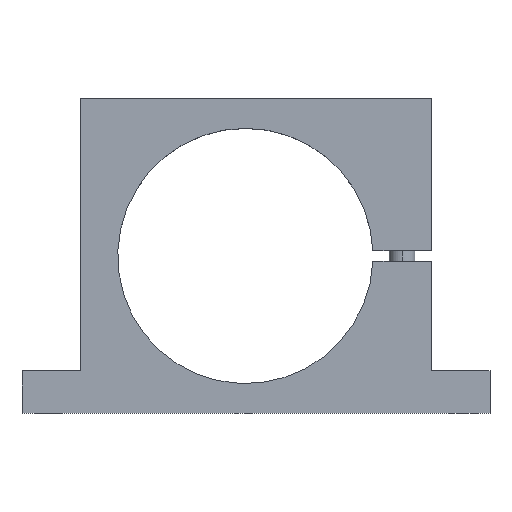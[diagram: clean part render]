
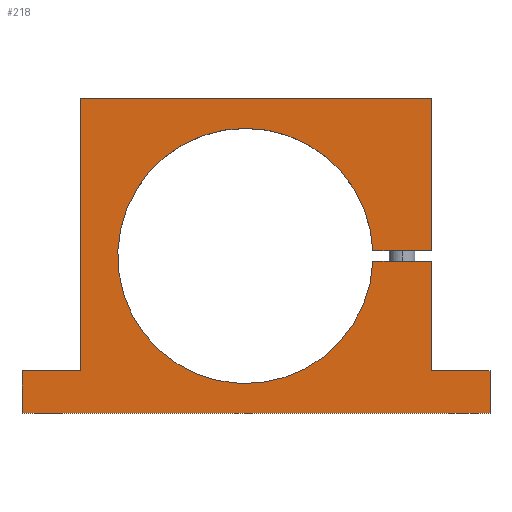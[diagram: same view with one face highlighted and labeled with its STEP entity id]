
A CAD part, top view. The second image highlights one B-rep face of the part: STEP entity #218.
In plain terms, the highlighted planar face has unit normal (0, 0, 1).
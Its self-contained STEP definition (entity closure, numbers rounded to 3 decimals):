
#61=CARTESIAN_POINT('Vertex',(-59.948,76.5,30.)) ;
#66=CARTESIAN_POINT('Axis2P3D Location',(0.,74.,30.)) ;
#70=CARTESIAN_POINT('Vertex',(59.948,71.5,30.)) ;
#108=CARTESIAN_POINT('Vertex',(59.948,76.5,30.)) ;
#111=CARTESIAN_POINT('Axis2P3D Location',(0.,74.,30.)) ;
#123=CARTESIAN_POINT('Axis2P3D Location',(0.,0.,30.)) ;
#128=CARTESIAN_POINT('Line Origine',(-105.,10.,30.)) ;
#132=CARTESIAN_POINT('Vertex',(-105.,0.,30.)) ;
#134=CARTESIAN_POINT('Vertex',(-105.,20.,30.)) ;
#137=CARTESIAN_POINT('Line Origine',(5.,0.,30.)) ;
#141=CARTESIAN_POINT('Vertex',(115.,0.,30.)) ;
#144=CARTESIAN_POINT('Line Origine',(115.,10.,30.)) ;
#148=CARTESIAN_POINT('Vertex',(115.,20.,30.)) ;
#151=CARTESIAN_POINT('Line Origine',(101.25,20.,30.)) ;
#155=CARTESIAN_POINT('Vertex',(87.5,20.,30.)) ;
#158=CARTESIAN_POINT('Line Origine',(87.5,45.75,30.)) ;
#162=CARTESIAN_POINT('Vertex',(87.5,71.5,30.)) ;
#165=CARTESIAN_POINT('Line Origine',(73.724,71.5,30.)) ;
#170=CARTESIAN_POINT('Line Origine',(73.724,76.5,30.)) ;
#174=CARTESIAN_POINT('Vertex',(87.5,76.5,30.)) ;
#177=CARTESIAN_POINT('Line Origine',(87.5,112.25,30.)) ;
#181=CARTESIAN_POINT('Vertex',(87.5,148.,30.)) ;
#184=CARTESIAN_POINT('Line Origine',(5.,148.,30.)) ;
#188=CARTESIAN_POINT('Vertex',(-77.5,148.,30.)) ;
#191=CARTESIAN_POINT('Line Origine',(-77.5,84.,30.)) ;
#195=CARTESIAN_POINT('Vertex',(-77.5,20.,30.)) ;
#198=CARTESIAN_POINT('Line Origine',(-91.25,20.,30.)) ;
#67=DIRECTION('Axis2P3D Direction',(0.,0.,-1.)) ;
#112=DIRECTION('Axis2P3D Direction',(0.,0.,-1.)) ;
#124=DIRECTION('Axis2P3D Direction',(0.,0.,1.)) ;
#125=DIRECTION('Axis2P3D XDirection',(1.,0.,0.)) ;
#129=DIRECTION('Vector Direction',(0.,1.,0.)) ;
#138=DIRECTION('Vector Direction',(-1.,0.,0.)) ;
#145=DIRECTION('Vector Direction',(0.,-1.,0.)) ;
#152=DIRECTION('Vector Direction',(1.,0.,0.)) ;
#159=DIRECTION('Vector Direction',(0.,-1.,0.)) ;
#166=DIRECTION('Vector Direction',(1.,0.,0.)) ;
#171=DIRECTION('Vector Direction',(-1.,0.,0.)) ;
#178=DIRECTION('Vector Direction',(0.,-1.,0.)) ;
#185=DIRECTION('Vector Direction',(1.,0.,0.)) ;
#192=DIRECTION('Vector Direction',(0.,1.,0.)) ;
#199=DIRECTION('Vector Direction',(1.,0.,0.)) ;
#68=AXIS2_PLACEMENT_3D('Circle Axis2P3D',#66,#67,$) ;
#113=AXIS2_PLACEMENT_3D('Circle Axis2P3D',#111,#112,$) ;
#126=AXIS2_PLACEMENT_3D('Plane Axis2P3D',#123,#124,#125) ;
#204=ORIENTED_EDGE('',*,*,#136,.F.) ;
#205=ORIENTED_EDGE('',*,*,#143,.F.) ;
#206=ORIENTED_EDGE('',*,*,#150,.F.) ;
#207=ORIENTED_EDGE('',*,*,#157,.F.) ;
#208=ORIENTED_EDGE('',*,*,#164,.F.) ;
#209=ORIENTED_EDGE('',*,*,#169,.F.) ;
#210=ORIENTED_EDGE('',*,*,#72,.F.) ;
#211=ORIENTED_EDGE('',*,*,#115,.F.) ;
#212=ORIENTED_EDGE('',*,*,#176,.F.) ;
#213=ORIENTED_EDGE('',*,*,#183,.F.) ;
#214=ORIENTED_EDGE('',*,*,#190,.F.) ;
#215=ORIENTED_EDGE('',*,*,#197,.F.) ;
#216=ORIENTED_EDGE('',*,*,#202,.F.) ;
#130=VECTOR('Line Direction',#129,1.) ;
#139=VECTOR('Line Direction',#138,1.) ;
#146=VECTOR('Line Direction',#145,1.) ;
#153=VECTOR('Line Direction',#152,1.) ;
#160=VECTOR('Line Direction',#159,1.) ;
#167=VECTOR('Line Direction',#166,1.) ;
#172=VECTOR('Line Direction',#171,1.) ;
#179=VECTOR('Line Direction',#178,1.) ;
#186=VECTOR('Line Direction',#185,1.) ;
#193=VECTOR('Line Direction',#192,1.) ;
#200=VECTOR('Line Direction',#199,1.) ;
#218=ADVANCED_FACE('',(#217),#127,.T.) ;
#69=CIRCLE('generated circle',#68,60.) ;
#114=CIRCLE('generated circle',#113,60.) ;
#72=EDGE_CURVE('',#62,#71,#69,.F.) ;
#115=EDGE_CURVE('',#109,#62,#114,.F.) ;
#136=EDGE_CURVE('',#133,#135,#131,.T.) ;
#143=EDGE_CURVE('',#142,#133,#140,.T.) ;
#150=EDGE_CURVE('',#149,#142,#147,.T.) ;
#157=EDGE_CURVE('',#156,#149,#154,.T.) ;
#164=EDGE_CURVE('',#163,#156,#161,.T.) ;
#169=EDGE_CURVE('',#71,#163,#168,.T.) ;
#176=EDGE_CURVE('',#175,#109,#173,.T.) ;
#183=EDGE_CURVE('',#182,#175,#180,.T.) ;
#190=EDGE_CURVE('',#189,#182,#187,.T.) ;
#197=EDGE_CURVE('',#196,#189,#194,.T.) ;
#202=EDGE_CURVE('',#135,#196,#201,.T.) ;
#203=EDGE_LOOP('',(#204,#205,#206,#207,#208,#209,#210,#211,#212,#213,#214,#215,#216)) ;
#217=FACE_OUTER_BOUND('',#203,.T.) ;
#131=LINE('Line',#128,#130) ;
#140=LINE('Line',#137,#139) ;
#147=LINE('Line',#144,#146) ;
#154=LINE('Line',#151,#153) ;
#161=LINE('Line',#158,#160) ;
#168=LINE('Line',#165,#167) ;
#173=LINE('Line',#170,#172) ;
#180=LINE('Line',#177,#179) ;
#187=LINE('Line',#184,#186) ;
#194=LINE('Line',#191,#193) ;
#201=LINE('Line',#198,#200) ;
#127=PLANE('Plane',#126) ;
#62=VERTEX_POINT('',#61) ;
#71=VERTEX_POINT('',#70) ;
#109=VERTEX_POINT('',#108) ;
#133=VERTEX_POINT('',#132) ;
#135=VERTEX_POINT('',#134) ;
#142=VERTEX_POINT('',#141) ;
#149=VERTEX_POINT('',#148) ;
#156=VERTEX_POINT('',#155) ;
#163=VERTEX_POINT('',#162) ;
#175=VERTEX_POINT('',#174) ;
#182=VERTEX_POINT('',#181) ;
#189=VERTEX_POINT('',#188) ;
#196=VERTEX_POINT('',#195) ;
